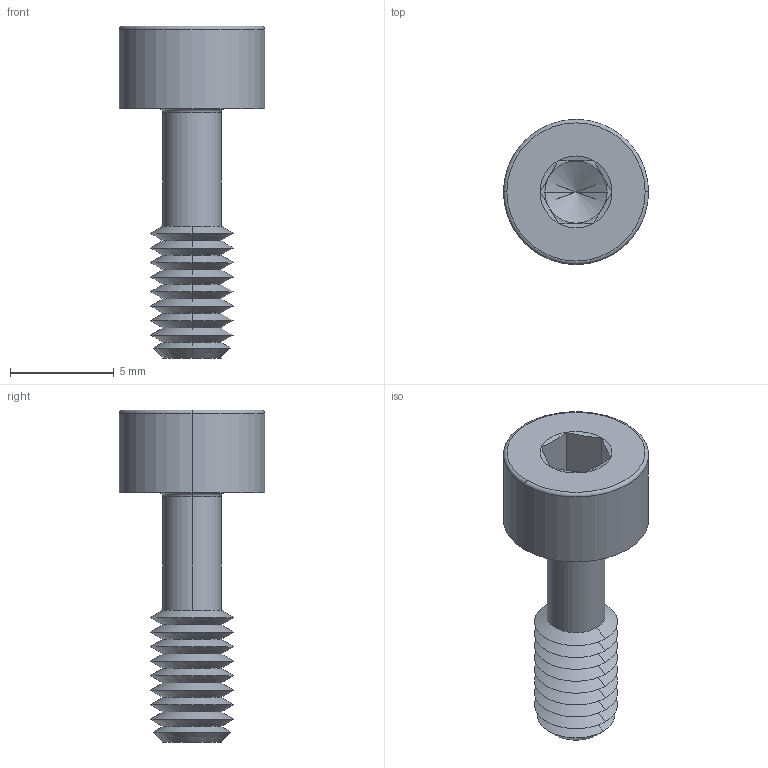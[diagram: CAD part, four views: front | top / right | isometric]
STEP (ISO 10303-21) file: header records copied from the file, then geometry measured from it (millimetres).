
FILE_DESCRIPTION (( 'STEP AP203' ), '1' );
FILE_NAME ('P0154.040-012-BL.step', '2024-06-17T11:24:08', ( '' ), ( '' ), 'SwSTEP 2.0', 'SolidWorks 2019', '' );
FILE_SCHEMA (( 'CONFIG_CONTROL_DESIGN' ));
Length unit declared in the file: millimetre
Products named in the file (1): P0154.040-012-BL
Bounding box: 7 x 7 x 16 mm (x, y, z)
Volume: 220.7 mm3; surface area: 376.2 mm2
Topology: 1 solids, 1 shells, 67 faces, 136 edges, 71 vertices
Faces by surface type: cone 44, plane 15, torus 4, cylinder 4
Entity records: 1787 total; most frequent: DIRECTION 332, CARTESIAN_POINT 299, ORIENTED_EDGE 268, AXIS2_PLACEMENT_3D 136, EDGE_CURVE 134, VERTEX_POINT 71, EDGE_LOOP 69, CIRCLE 68
